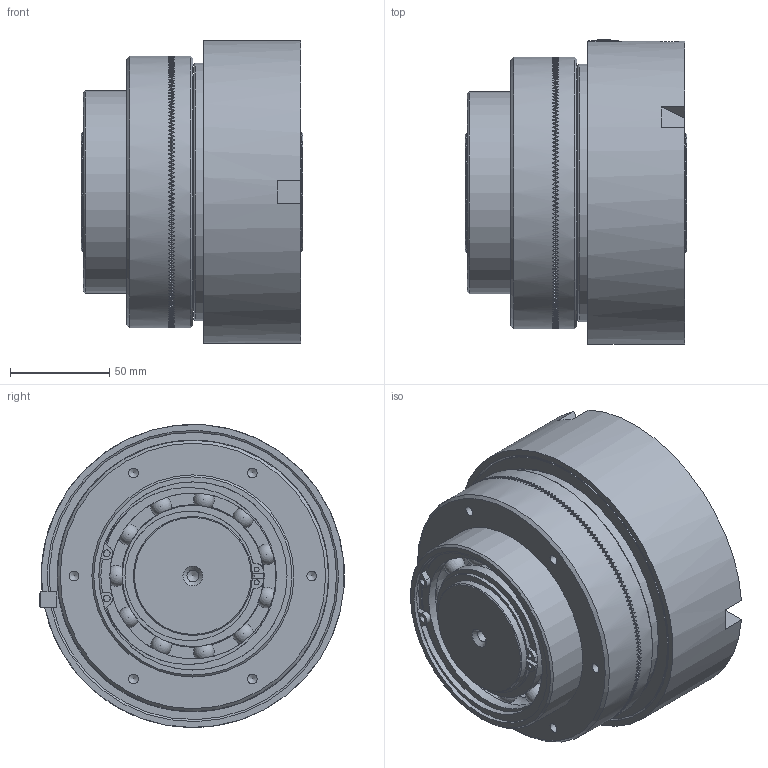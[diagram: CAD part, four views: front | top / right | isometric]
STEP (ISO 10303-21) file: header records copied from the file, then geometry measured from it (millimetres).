
FILE_DESCRIPTION(/* description */ (''),/* implementation_level */ '2;1');
FILE_NAME(/* name */ '\\Srv-tecnico\DATI\UFFICIO TECNICO\ARCHIVIO INVENTOR\DISEGNI\UFFICIO TECNICO\03_Friz_Oleodinamiche e Pneumatiche_Cilindro_Statico\03_20 DPR\03_20_04_01 DPR04\03_20_04_01 INNESTO PNEUM. A DENTI CON RINVIO DPR-04-2015@STEP.stp',/* time_stamp */ '2016-01-14T10:31:48+01:00',/* author */ ('stefano'),/* organization */ (''),/* preprocessor_version */ 'ST-DEVELOPER v15.6',/* originating_system */ 'Autodesk Inventor 2015',/* authorisation */ '');
FILE_SCHEMA (('AUTOMOTIVE_DESIGN { 1 0 10303 214 3 1 1 }'));
Products named in the file (1): 03_20_04_01 INNESTO PNEUM. A DENTI CON RINVIO DPR-04_2015
Bounding box: 112 x 153.9 x 152.93 mm (x, y, z)
Volume: 1319658.3 mm3; surface area: 261831.8 mm2
Topology: 1 solids, 1 shells, 2511 faces, 7697 edges, 5101 vertices
Faces by surface type: plane 1720, cylinder 444, torus 279, sphere 45, cone 23
Full cylindrical faces by diameter (mm): 2.5 x4, 3.5 x2, 4.917 x6, 6 x2, 6.5 x1, 7 x7, 11.445 x1, 57 x2, 60 x4, 71.2 x6, 72 x1, 83.8 x6, 84 x1, 85 x3, 95 x4, 96 x1, 98.5 x1, 99.4 x2, 100 x1, 102 x1, 115.6 x2, 118 x1, 120 x1, 126 x3, 130 x1, 137 x2, 140 x2, 153 x1
Entity records: 95337 total; most frequent: CARTESIAN_POINT 24801, DIRECTION 16246, ORIENTED_EDGE 14834, EDGE_CURVE 7415, AXIS2_PLACEMENT_3D 7057, VERTEX_POINT 4964, EDGE_LOOP 2697, ADVANCED_FACE 2511
